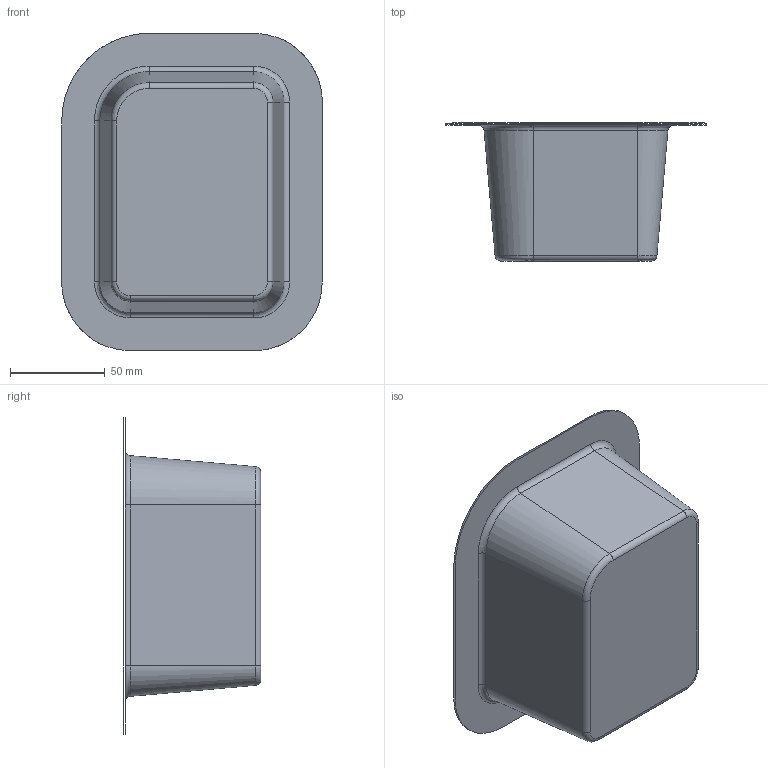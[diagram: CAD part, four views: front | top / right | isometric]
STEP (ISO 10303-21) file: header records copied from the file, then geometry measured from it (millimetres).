
FILE_DESCRIPTION(('CATIA V5 STEP Exchange'),'2;1');
FILE_NAME('C:\_Andres\UNIVERSIDAD\IQS\ASIGNATURAS\DAO\Controles\1617\c3\2inicio\Homs_Ruano_control3_v15.stp','2017-02-17T14:22:07+00:00',('none'),('none'),'CATIA Version 5-6 Release 2014 SP1 HF18','CATIA V5 STEP AP203','none');
FILE_SCHEMA(('CONFIG_CONTROL_DESIGN'));
Length unit declared in the file: millimetre
Products named in the file (1): Homs_Ruano_control3_v15
Bounding box: 137.55 x 72.73 x 167.55 mm (x, y, z)
Surface area: 68820.7 mm2 (no closed solid volume)
Topology: 0 solids, 2 shells, 27 faces, 80 edges, 57 vertices
Faces by surface type: bspline 16, cylinder 8, plane 3
Entity records: 1925 total; most frequent: CARTESIAN_POINT 1329, ORIENTED_EDGE 128, EDGE_CURVE 72, B_SPLINE_CURVE_WITH_KNOTS 54, DIRECTION 50, VERTEX_POINT 48, EDGE_LOOP 28, ADVANCED_FACE 27
